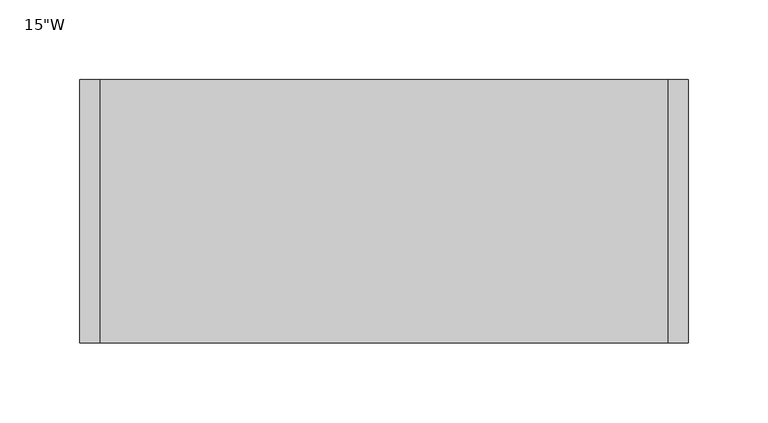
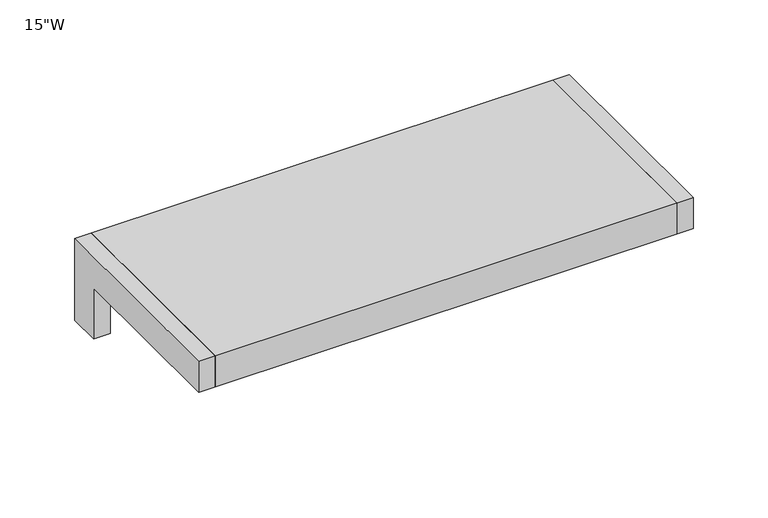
"""IFC4 building model written with IfcOpenShell, lengths in millimetres: furniture geometry."""

from ifc_helpers import new_model, si_unit, frame, origin, place, context, project, spatial, polyline, outline, extrude, source, transform, mapped, element, save


def furniture_4c5c4c9d(model_context):
    return source(origin(), model_context, "Body", "SweptSolid", [
        extrude(outline(polyline([(177.8000121, 0.0), (177.8000121, -165.1), (-177.8, -165.1), (-177.8, 0.0), (177.8000121, 0.0)])), frame((0.0, 0.0, 796.9249992), z_axis=(0.0, 0.0, 1.0), x_axis=(1.0, 0.0, 0.0)), (0.0, 0.0, 1.0), 25.4000008),
        extrude(outline(polyline([(-25.3999947, 796.9249992), (-165.1, 796.9249992), (-165.1, 822.325), (0.0, 822.325), (0.0, 755.65), (-25.3999947, 755.65), (-25.3999947, 796.9249992)])), frame((177.8000121, 0.0, 0.0), z_axis=(1.0, 0.0, 0.0), x_axis=(0.0, 1.0, 0.0)), (0.0, 0.0, 1.0), 12.6999879),
        extrude(outline(polyline([(-165.1, 822.325), (0.0, 822.325), (0.0, 755.65), (-25.3999947, 755.65), (-25.3999947, 796.9249992), (-165.1, 796.9249992), (-165.1, 822.325)])), frame((-190.5, 0.0, 0.0), z_axis=(1.0, 0.0, 0.0), x_axis=(0.0, 1.0, 0.0)), (0.0, 0.0, 1.0), 12.7),
    ])


if __name__ == "__main__":
    model = new_model("IFC4")
    model_context = context("Model", 3, world=origin())
    ifc_project = project(units=[si_unit("LENGTHUNIT", "METRE", prefix="MILLI")], contexts=[model_context])
    site = spatial("IfcSite", under=ifc_project)
    building = spatial("IfcBuilding", under=site)
    placement = place(None, origin())
    furniture_shape = furniture_4c5c4c9d(model_context)
    element("IfcFurniture", 1, ObjectType="HermanMiller_ThrivePortfolio_Y7310_Mini-Shelf : 15\"W", at=placement, inside=building, context=model_context, shape_type="MappedRepresentation", body=[
        mapped(furniture_shape, transform((0.0, 0.0, 0.0), x_axis=(1.0, 0.0, 0.0), y_axis=(0.0, 1.0, 0.0), z_axis=(0.0, 0.0, 1.0))),
    ])
    save(model, "model.ifc")
